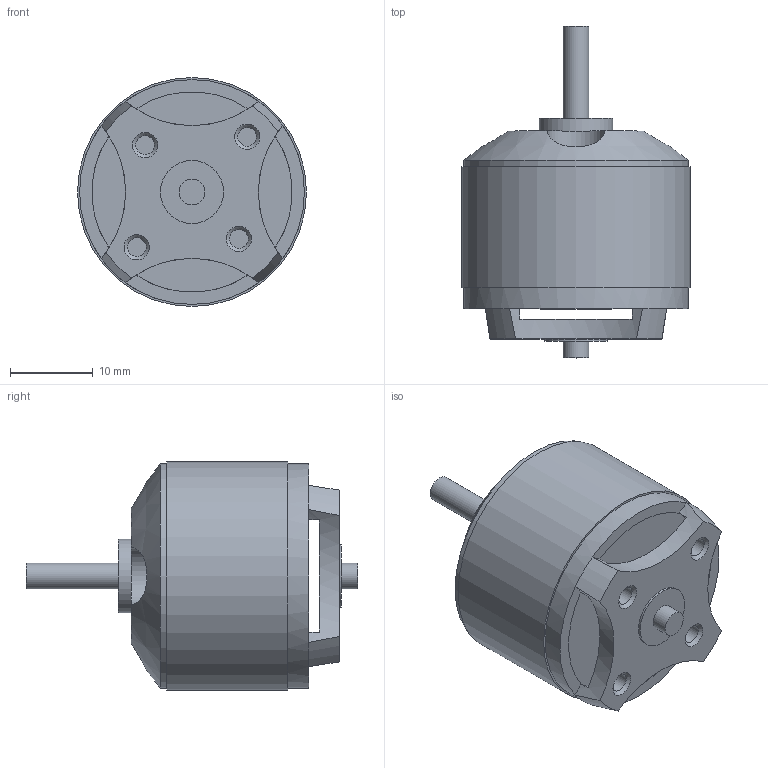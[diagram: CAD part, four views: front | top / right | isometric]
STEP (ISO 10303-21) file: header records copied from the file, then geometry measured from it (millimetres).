
FILE_DESCRIPTION(/* description */ ('STEP AP214','CAx-IF Rec.Pracs.---User Defined Attributes---1.5---2016-08-15'),/* implementation_level */ '2;1');
FILE_NAME(/* name */ '6adecadfc84253b17e62e3c4',/* time_stamp */ '2026-10-26T03:37:03Z',/* author */ (''),/* organization */ (''),/* preprocessor_version */ 'ST-DEVELOPER v20',/* originating_system */ 'ONSHAPE BY PTC INC, 1.222',/* authorisation */ ' ');
FILE_SCHEMA (('AUTOMOTIVE_DESIGN {1 0 10303 214 3 1 1}'));
Length unit declared in the file: metre
Products named in the file (1): BLDC_A2212_13T_1000KV-1
Bounding box: 27.69 x 40.13 x 27.69 mm (x, y, z)
Volume: 11226.2 mm3; surface area: 4485.2 mm2
Topology: 1 solids, 1 shells, 50 faces, 128 edges, 79 vertices
Faces by surface type: plane 21, cylinder 20, cone 9
Full cylindrical faces by diameter (mm): 2.261 x4, 3.111 x2, 6.985 x4, 7.62 x1, 8.89 x1, 24.232 x1, 27.178 x2, 27.686 x1
Entity records: 1541 total; most frequent: CARTESIAN_POINT 285, DIRECTION 272, ORIENTED_EDGE 202, AXIS2_PLACEMENT_3D 132, EDGE_CURVE 101, EDGE_LOOP 84, FACE_BOUND 84, CIRCLE 81
